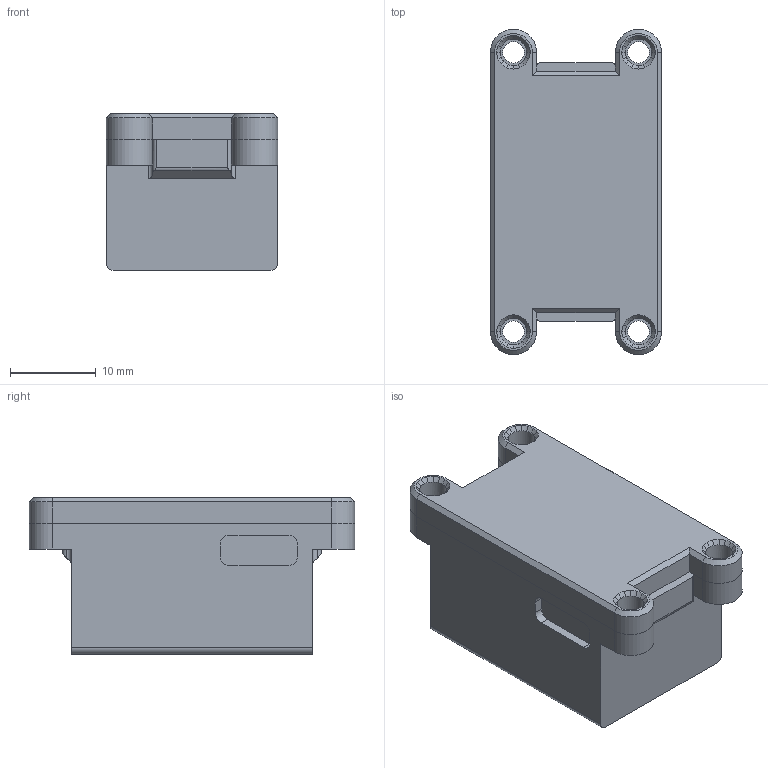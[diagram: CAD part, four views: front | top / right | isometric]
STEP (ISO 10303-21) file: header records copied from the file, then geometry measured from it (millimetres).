
FILE_DESCRIPTION(/* description */ (''),/* implementation_level */ '2;1');
FILE_NAME(/* name */ 'DOT_sensor.stp',/* time_stamp */ '2026-10-06T16:51:59+02:00',/* author */ (''),/* organization */ (''),/* preprocessor_version */ 'ST-DEVELOPER v20',/* originating_system */ 'SIEMENS PLM Software NX2312.9162',/* authorisation */ '');
FILE_SCHEMA (('AUTOMOTIVE_DESIGN { 1 0 10303 214 3 1 1 1 }'));
Length unit declared in the file: millimetre
Products named in the file (1): DOT_sensor_stp_objects
Bounding box: 20 x 38 x 18.3 mm (x, y, z)
Volume: 10727.4 mm3; surface area: 4696.9 mm2
Topology: 2 solids, 2 shells, 196 faces, 541 edges, 354 vertices
Faces by surface type: plane 87, cone 72, cylinder 34, extrusion 3
Full cylindrical faces by diameter (mm): 2.5 x4, 3.1 x4
Entity records: 6289 total; most frequent: CARTESIAN_POINT 1119, DIRECTION 1108, ORIENTED_EDGE 1050, EDGE_CURVE 525, AXIS2_PLACEMENT_3D 394, VERTEX_POINT 350, VECTOR 320, LINE 317
